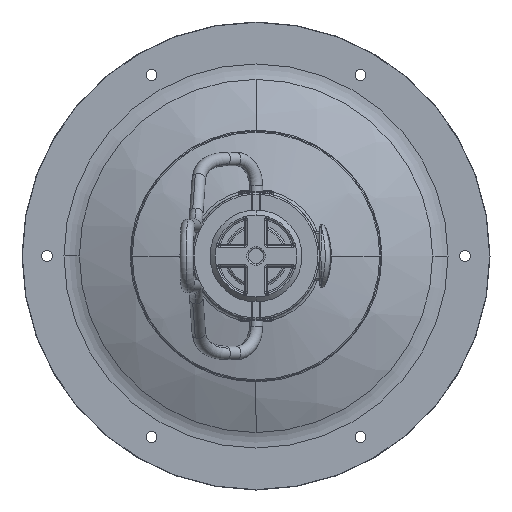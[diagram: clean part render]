
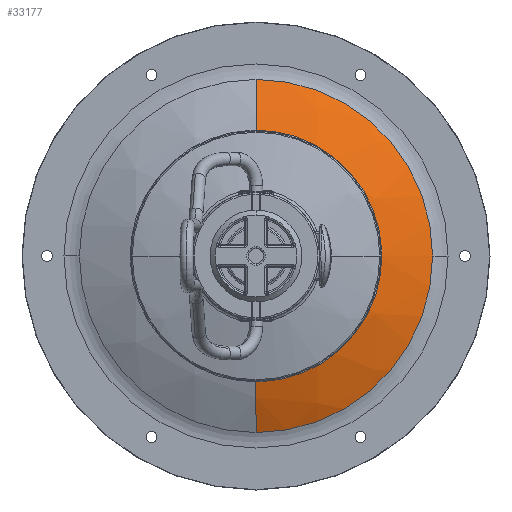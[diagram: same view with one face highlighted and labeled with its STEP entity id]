
A CAD part, front view. The second image highlights one B-rep face of the part: STEP entity #33177.
In plain terms, the highlighted spherical face has radius 229 mm.
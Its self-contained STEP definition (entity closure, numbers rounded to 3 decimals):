
#743 = AXIS2_PLACEMENT_3D ( 'NONE', #48173, #12819, #54083 ) ;
#916 = CARTESIAN_POINT ( 'NONE',  ( 105.65, -4.256, 0. ) ) ;
#3147 = VERTEX_POINT ( 'NONE', #19368 ) ;
#3181 = DIRECTION ( 'NONE',  ( 0., 0., -1. ) ) ;
#4265 = CARTESIAN_POINT ( 'NONE',  ( -40.352, -26.5, 0. ) ) ;
#4354 = SPHERICAL_SURFACE ( 'NONE', #43391, 229. ) ;
#5254 = CARTESIAN_POINT ( 'NONE',  ( -105.65, -4.256, 0. ) ) ;
#5316 = CARTESIAN_POINT ( 'NONE',  ( 0., -26.5, 0. ) ) ;
#5535 = CIRCLE ( 'NONE', #743, 40.352 ) ;
#6001 = ORIENTED_EDGE ( 'NONE', *, *, #8781, .T. ) ;
#6104 = CIRCLE ( 'NONE', #7145, 105.65 ) ;
#7145 = AXIS2_PLACEMENT_3D ( 'NONE', #10903, #47104, #29157 ) ;
#7480 = EDGE_LOOP ( 'NONE', ( #40371, #14712, #6001, #12037, #23569, #21623 ) ) ;
#8781 = EDGE_CURVE ( 'NONE', #14302, #3147, #13687, .T. ) ;
#10903 = CARTESIAN_POINT ( 'NONE',  ( 0., -4.256, 0. ) ) ;
#11133 = DIRECTION ( 'NONE',  ( -1., 0., 0. ) ) ;
#12037 = ORIENTED_EDGE ( 'NONE', *, *, #13311, .F. ) ;
#12089 = CARTESIAN_POINT ( 'NONE',  ( 0., -4.256, 0. ) ) ;
#12819 = DIRECTION ( 'NONE',  ( 0., -1., 0. ) ) ;
#13311 = EDGE_CURVE ( 'NONE', #32330, #3147, #5535, .T. ) ;
#13687 = CIRCLE ( 'NONE', #54750, 229. ) ;
#14302 = VERTEX_POINT ( 'NONE', #916 ) ;
#14400 = EDGE_CURVE ( 'NONE', #39364, #44163, #37927, .T. ) ;
#14712 = ORIENTED_EDGE ( 'NONE', *, *, #33442, .T. ) ;
#16222 = CARTESIAN_POINT ( 'NONE',  ( 0., 198.917, 0. ) ) ;
#17909 = CARTESIAN_POINT ( 'NONE',  ( 0., 198.917, 0. ) ) ;
#19368 = CARTESIAN_POINT ( 'NONE',  ( 40.352, -26.5, 0. ) ) ;
#20723 = DIRECTION ( 'NONE',  ( 0., 0., -1. ) ) ;
#21545 = DIRECTION ( 'NONE',  ( 0., 0., 1. ) ) ;
#21623 = ORIENTED_EDGE ( 'NONE', *, *, #14400, .F. ) ;
#21846 = EDGE_CURVE ( 'NONE', #39364, #22574, #49883, .T. ) ;
#22574 = VERTEX_POINT ( 'NONE', #35192 ) ;
#23569 = ORIENTED_EDGE ( 'NONE', *, *, #35917, .F. ) ;
#23858 = DIRECTION ( 'NONE',  ( 0., 0., -1. ) ) ;
#24105 = AXIS2_PLACEMENT_3D ( 'NONE', #12089, #48595, #29456 ) ;
#26487 = CARTESIAN_POINT ( 'NONE',  ( 0., 198.917, 0. ) ) ;
#26714 = AXIS2_PLACEMENT_3D ( 'NONE', #5316, #46570, #23858 ) ;
#29157 = DIRECTION ( 'NONE',  ( 0., 0., -1. ) ) ;
#29456 = DIRECTION ( 'NONE',  ( 0., 0., -1. ) ) ;
#32330 = VERTEX_POINT ( 'NONE', #33916 ) ;
#33177 = ADVANCED_FACE ( 'NONE', ( #49810 ), #4354, .T. ) ;
#33442 = EDGE_CURVE ( 'NONE', #22574, #14302, #6104, .T. ) ;
#33916 = CARTESIAN_POINT ( 'NONE',  ( 0., -26.5, -40.352 ) ) ;
#35192 = CARTESIAN_POINT ( 'NONE',  ( 0., -4.256, -105.65 ) ) ;
#35917 = EDGE_CURVE ( 'NONE', #44163, #32330, #52501, .T. ) ;
#37927 = CIRCLE ( 'NONE', #43717, 229. ) ;
#39364 = VERTEX_POINT ( 'NONE', #5254 ) ;
#40371 = ORIENTED_EDGE ( 'NONE', *, *, #21846, .T. ) ;
#40839 = DIRECTION ( 'NONE',  ( -1., 0., 0. ) ) ;
#43391 = AXIS2_PLACEMENT_3D ( 'NONE', #26487, #3181, #40839 ) ;
#43717 = AXIS2_PLACEMENT_3D ( 'NONE', #17909, #21545, #58863 ) ;
#44163 = VERTEX_POINT ( 'NONE', #4265 ) ;
#46570 = DIRECTION ( 'NONE',  ( 0., -1., 0. ) ) ;
#47104 = DIRECTION ( 'NONE',  ( 0., -1., 0. ) ) ;
#48173 = CARTESIAN_POINT ( 'NONE',  ( 0., -26.5, 0. ) ) ;
#48595 = DIRECTION ( 'NONE',  ( 0., -1., 0. ) ) ;
#49810 = FACE_OUTER_BOUND ( 'NONE', #7480, .T. ) ;
#49883 = CIRCLE ( 'NONE', #24105, 105.65 ) ;
#52501 = CIRCLE ( 'NONE', #26714, 40.352 ) ;
#54083 = DIRECTION ( 'NONE',  ( 0., 0., -1. ) ) ;
#54750 = AXIS2_PLACEMENT_3D ( 'NONE', #16222, #20723, #11133 ) ;
#58863 = DIRECTION ( 'NONE',  ( 1., 0., 0. ) ) ;
